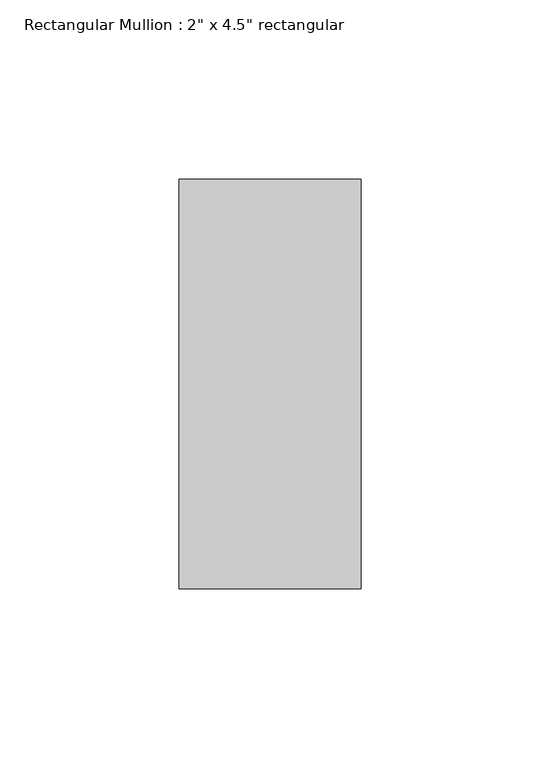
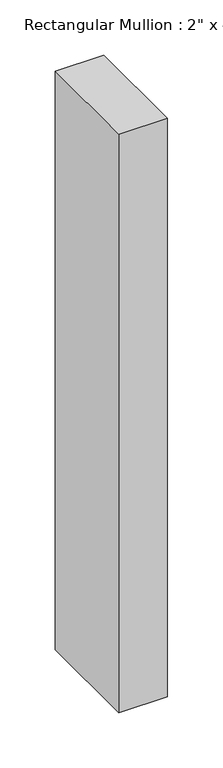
"""IFC4 building model written with IfcOpenShell, lengths in millimetres: member geometry."""

from ifc_helpers import new_model, si_unit, frame, origin, place, context, project, spatial, polyline, outline, extrude, source, transform, mapped, element, save


def member_224475ab(model_context):
    return source(origin(), model_context, "Body", "SweptSolid", [
        extrude(outline(polyline([(0.0, 57.15), (0.0, -57.15), (-50.8, -57.15), (-50.8, 57.15), (0.0, 57.15)])), frame((0.0, 0.0, -638.34817), z_axis=(0.0, 0.0, 1.0), x_axis=(1.0, 0.0, 0.0)), (0.0, 0.0, 1.0), 638.34817),
    ])


if __name__ == "__main__":
    model = new_model("IFC4")
    model_context = context("Model", 3, world=origin())
    ifc_project = project(units=[si_unit("LENGTHUNIT", "METRE", prefix="MILLI")], contexts=[model_context])
    site = spatial("IfcSite", under=ifc_project)
    building = spatial("IfcBuilding", under=site)
    placement = place(None, origin())
    member_shape = member_224475ab(model_context)
    element("IfcMember", 1, ObjectType="Rectangular Mullion : 2\" x 4.5\" rectangular", at=placement, inside=building, context=model_context, shape_type="MappedRepresentation", body=[
        mapped(member_shape, transform((0.0, 0.0, 0.0), x_axis=(1.0, 0.0, 0.0), y_axis=(0.0, 1.0, 0.0), z_axis=(0.0, 0.0, 1.0))),
    ])
    save(model, "model.ifc")
